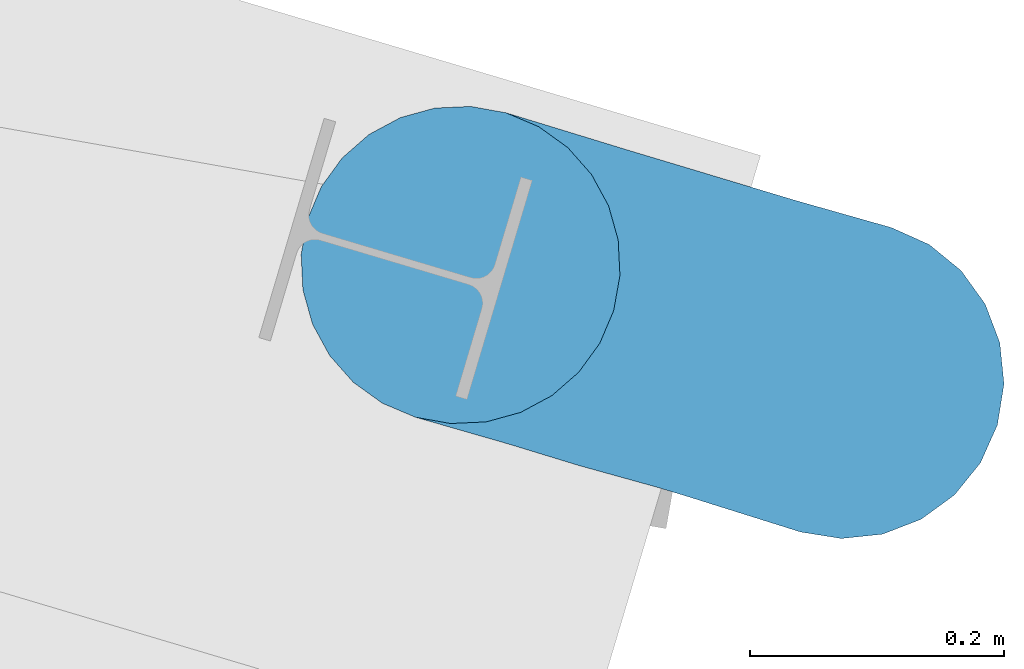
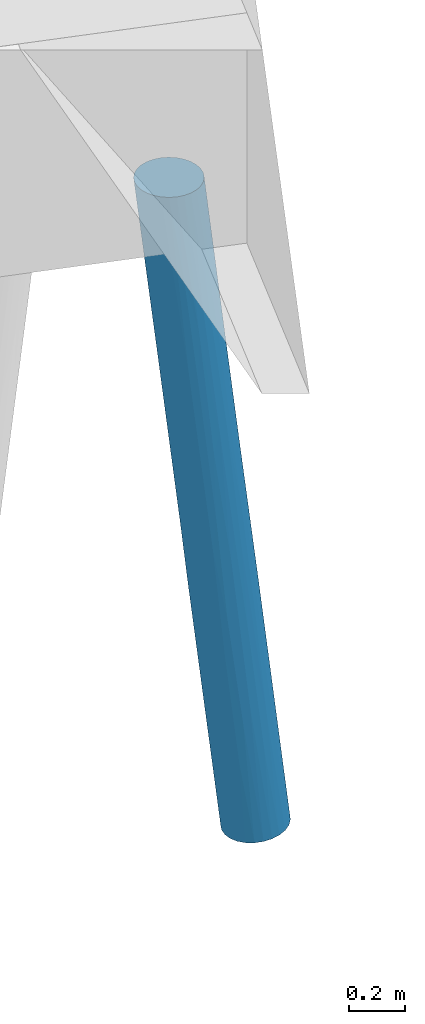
# One storey, part 45 of 46: 1 pile.
"""IFC2X3 building model written with IfcOpenShell, lengths in millimetres."""

from ifc_helpers import new_model, entity, si_unit, converted_unit, derived_unit, direction, frame, origin, place, context, subcontext, project, spatial, faceted_brep, source, transform, mapped, material, type_object, type_shapes, element, save


model = new_model("IFC2X3")

# Units and contexts
model_context = context("Model", 3, precision=0.01, world=origin(), true_north=direction((6.123233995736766e-17, 1.0)))
body_context = subcontext(model_context, "Body", "Model", "MODEL_VIEW")
ifc_project = project(units=[si_unit("LENGTHUNIT", "METRE", prefix="MILLI"), converted_unit("PLANEANGLEUNIT", "DEGREE", entity("IfcPlaneAngleMeasure", 0.017453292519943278), si_unit("PLANEANGLEUNIT", "RADIAN"), dimensions=[0, 0, 0, 0, 0, 0, 0]), si_unit("AREAUNIT", "SQUARE_METRE"), derived_unit("THERMALTRANSMITTANCEUNIT", [(si_unit("MASSUNIT", "GRAM", prefix="KILO"), 1), (si_unit("THERMODYNAMICTEMPERATUREUNIT", "KELVIN"), -1), (si_unit("TIMEUNIT", "SECOND"), -3)])], contexts=[model_context])

# Site, building, storey
site_placement = place(None, frame((-72937.88054949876, 11621.45624098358, 0.0), z_axis=(0.0, 0.0, 1.0), x_axis=(0.9346418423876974, -0.35559053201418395, 0.0)))
site = spatial("IfcSite", under=ifc_project, at=site_placement, Name="Default", CompositionType="ELEMENT")
building_placement = place(site_placement, origin())
building = spatial("IfcBuilding", under=site, at=building_placement, CompositionType="ELEMENT")
storey_placement = place(building_placement, origin())
storey = spatial("IfcBuildingStorey", under=building, at=storey_placement, Name="00 begane grond", CompositionType="ELEMENT", Elevation=0.0)

# Pile
ifc_material = material(Name="beton_gewapend_prefab-element_c45/55")
type_product = type_object("IfcTypeProduct", Name="Type 01", material=ifc_material)
shared_shape = source(origin(), body_context, "Body", "Brep", [
    faceted_brep([(72.36643070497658, 41.239861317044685, -1587.2480771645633), (115.53639022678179, 54.2354673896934, -1150.0), (124.838162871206, 27.815116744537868, -1150.0), (-182.0787577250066, 65.1457063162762, -1842.6627389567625), (-165.1894529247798, 41.33003827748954, -1588.4448595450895), (-111.09194578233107, 54.23546738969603, -1150.0), (15.031797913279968, 88.27496307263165, -1836.1297740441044), (32.98344934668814, 64.94314047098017, -1840.3127773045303), (-30.14575159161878, 64.60051474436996, -2410.3553271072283), (41.77006032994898, 0.0, -1925.992599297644), (80.6380595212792, 97.7289353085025, -1150.0), (100.55257203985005, 77.9362252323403, -1150.0), (-175.6519081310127, 115.48494156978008, -3184.035406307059), (-108.17343100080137, 106.74566752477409, -2732.5343267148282), (-180.54618184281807, 99.16916754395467, -3483.986786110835), (30.20851053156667, 121.8659890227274, -1150.0), (56.79144948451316, 112.62110848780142, -1150.0), (-42.91884640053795, 117.90464735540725, -1932.2038124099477), (-120.39371842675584, 27.81511674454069, -1150.0), (-245.70385641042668, 64.88368548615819, -2413.8437241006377), (-162.25875578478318, 88.50075404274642, -1830.9574517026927), (-242.98263969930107, 88.62069146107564, -2558.5627355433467), (-151.93048965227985, 53.33845094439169, -3561.073967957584), (-133.56769714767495, 28.49629953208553, -3474.2266886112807), (-194.4421984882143, 32.35238063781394, -4013.333582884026), (12.222467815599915, 106.275938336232, -1655.8961403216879), (-73.06982999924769, 124.27812918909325, -1949.1011896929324), (-80.64748703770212, 124.23668125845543, -1770.9263967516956), (-23.427620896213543, 124.20079095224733, -1508.6429901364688), (-240.21076201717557, 123.93060767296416, -3479.642475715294), (-314.4444444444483, 125.0, -4000.0), (-265.024992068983, 123.93060767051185, -3407.479310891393), (-117.33081280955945, 0.0, -3357.900457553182), (-190.20897761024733, 0.0, -4013.803940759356), (2.2222222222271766, 125.0, -1150.0), (-25.764066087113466, 121.86598902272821, -1150.0), (-326.96702366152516, 47.83542903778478, -3066.942589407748), (-375.2689438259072, 28.366113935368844, -3445.0277270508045), (-317.9689709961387, 23.60182842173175, -2920.157783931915), (-73.70805836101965, 23.187811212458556, -2945.6497765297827), (-39.92708990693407, 41.47720200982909, -2597.136214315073), (16.085837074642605, 41.18767244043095, -2093.938466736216), (-196.28435151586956, 123.47165352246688, -2760.095105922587), (-183.665203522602, 123.01104339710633, -3024.1067526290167), (-226.59670338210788, 88.38834764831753, -4009.7608601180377), (-252.3267110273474, 108.25317547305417, -4006.901970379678), (-148.27550792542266, 76.09517863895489, -3402.494577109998), (-206.8533741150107, 62.49999999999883, -4011.9545633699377), (-52.347005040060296, 112.62110848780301, -1150.0), (-99.40312932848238, 118.21391771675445, -1696.7443345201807), (-119.74622127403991, 106.37235269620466, -1653.229951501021), (-185.92128902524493, 102.46025049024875, -2194.904710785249), (-238.2779479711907, 106.2597512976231, -2718.3665211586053), (-42.820885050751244, 102.58547775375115, -2202.1491422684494), (-156.2252162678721, 118.09364807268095, -2204.9892079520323), (-319.0271104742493, 115.48494156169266, -3608.075760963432), (-264.72929865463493, 115.48494155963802, -3119.3954545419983), (-96.10812759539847, 77.93622523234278, -1150.0), (-76.19361507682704, 97.72893530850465, -1150.0), (-1.3402226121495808, 0.0, -2313.985145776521), (-44.451993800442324, 0.0, -2701.9910864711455), (-292.6922084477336, 91.63383624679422, -3034.349570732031), (-292.9202820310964, 72.79893776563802, -2886.1326580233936), (-227.31882224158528, 115.48494156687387, -3649.0376333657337), (-282.2899395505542, 120.74072828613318, -4003.5727227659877), (-221.60043037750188, 41.38232604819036, -2096.309657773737), (-209.76851175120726, 0.0, -1925.9934634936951), (-346.59894933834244, 120.74072828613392, -3996.4272772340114), (-376.56217786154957, 108.25317547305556, -3993.0980296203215), (-66.21715172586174, 88.15377228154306, -2568.4634430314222), (-129.97696806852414, 118.32629651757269, -2704.701988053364), (-123.5470158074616, 0.0, -1150.0), (-345.703852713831, 76.09517862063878, -3383.3196685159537), (-377.5274465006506, 52.979842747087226, -3542.5215927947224), (-275.88856858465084, 42.22399193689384, -2587.6075033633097), (-402.29218550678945, 88.38834764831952, -3990.239139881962), (-422.0355147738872, 62.50000000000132, -3988.0454366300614), (-331.8470727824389, 99.16916753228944, -3467.5525053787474), (-132.44344591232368, 124.68323586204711, -2281.458802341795), (-89.11715414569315, 71.65077909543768, -2899.5648185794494), (-96.52658231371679, 47.8354290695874, -3084.4998642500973), (127.99146025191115, 0.0, -1150.0), (-252.87925972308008, 0.0, -2313.9901952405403), (-122.93481462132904, 90.89446365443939, -3053.447507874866), (-438.679911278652, 0.0, -3986.1960592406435), (-434.4466904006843, 32.352380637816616, -3986.6664171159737), (-141.73877836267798, 124.16072599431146, -2576.5969257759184), (-210.06991733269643, 117.23436667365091, -2667.881922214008), (-367.33495948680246, 0.0, -3344.091493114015), (-295.9900076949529, 0.0, -2701.9869269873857), (-120.39371842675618, -27.815116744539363, -1150.0), (-111.09194578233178, -54.23546738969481, -1150.0), (-96.10812759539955, -77.93622523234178, -1150.0), (-76.1936150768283, -97.72893530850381, -1150.0), (-52.34700504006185, -112.62110848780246, -1150.0), (-25.76406608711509, -121.86598902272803, -1150.0), (2.222222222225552, -125.0, -1150.0), (30.20851053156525, -121.86598902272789, -1150.0), (56.79144948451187, -112.62110848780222, -1150.0), (80.63805952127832, -97.7289353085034, -1150.0), (100.55257203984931, -77.93622523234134, -1150.0), (115.53639022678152, -54.23546738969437, -1150.0), (124.83816287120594, -27.815116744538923, -1150.0), (-151.9304895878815, -53.338451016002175, -3561.073967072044), (-133.5676976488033, -28.496299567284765, -3474.2266930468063), (-96.52658225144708, -47.83542901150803, -3084.4998639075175), (-140.32328536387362, -105.94191584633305, -1832.1538289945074), (-126.78568187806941, -88.44799753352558, -1511.2211246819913), (-176.7825211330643, -87.58614607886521, -1953.453255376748), (-185.53475823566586, -41.3488976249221, -1771.6124540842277), (-98.5233768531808, -124.24251446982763, -1932.2861052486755), (-221.49211536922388, -66.66107193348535, -2205.8974607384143), (-159.3540506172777, -67.83984168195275, -1653.46778938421), (-312.10423006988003, -99.16916769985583, -3289.866922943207), (-352.8086337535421, -76.09517892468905, -3447.262699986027), (-402.2921855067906, -88.38834764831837, -3990.239139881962), (-235.41358059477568, -123.93060766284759, -3436.4678436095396), (-314.44444444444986, -125.0, -4000.0), (-282.2899395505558, -120.74072828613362, -4003.5727227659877), (-384.2243809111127, -47.83542945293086, -3582.258806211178), (-328.2998352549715, -47.83542988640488, -3078.9378969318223), (-362.94366171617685, -26.27355326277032, -3329.855963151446), (-376.562177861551, -108.25317547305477, -3993.0980296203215), (-226.59670338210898, -88.38834764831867, -4009.7608601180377), (-148.27550783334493, -76.0951785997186, -3402.49457655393), (-180.54618171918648, -99.16916751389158, -3483.9867853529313), (-104.92272192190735, -118.27912572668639, -1748.1433712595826), (-163.52036571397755, -118.46525212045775, -2280.4898650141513), (-39.927089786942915, -41.4772017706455, -2597.1362139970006), (-89.11715398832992, -71.6507788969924, -2899.5648184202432), (-221.11735801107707, -106.04994682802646, -2560.8655013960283), (-274.28881423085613, -82.15433137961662, -2785.484682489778), (-434.4466904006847, -32.35238063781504, -3986.6664171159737), (-422.03551477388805, -62.49999999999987, -3988.0454366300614), (-129.97696798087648, -118.32629644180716, -2704.7019892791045), (-141.73877802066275, -124.16072595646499, -2576.596925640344), (-180.90977316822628, -122.95522291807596, -3002.087637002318), (-232.56829871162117, -117.68101498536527, -2881.4778788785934), (-242.59310629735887, -123.930607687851, -3205.592340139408), (-180.2811496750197, -124.04234815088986, -2652.6852150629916), (-346.598949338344, -120.7407282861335, -3996.4272772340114), (-301.7888662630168, -115.48494161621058, -3452.931564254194), (-206.85337411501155, -62.50000000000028, -4011.9545633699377), (-29.559553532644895, -124.19873841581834, -1563.993853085), (-83.4987298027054, -124.18127902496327, -2050.828488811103), (-42.91884618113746, -117.90464729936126, -1932.2038118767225), (-30.14575143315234, -64.60051457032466, -2410.3553266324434), (32.983449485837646, -64.94314037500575, -1840.3127765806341), (15.03179802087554, -88.27496298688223, -1836.1297738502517), (12.222467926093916, -106.27593827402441, -1655.89614023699), (-42.820884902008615, -102.58547764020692, -2202.149142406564), (-73.70805863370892, -23.18781108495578, -2945.6497792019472), (72.36643080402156, -41.2398612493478, -1587.2480764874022), (16.08583725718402, -41.18767230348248, -2093.9384655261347), (-221.94118502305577, -91.78881553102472, -2399.105716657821), (-122.93481449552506, -90.89446347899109, -3053.447508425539), (-66.2171515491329, -88.15377212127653, -2568.463442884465), (-108.173430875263, -106.74566744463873, -2732.534326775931), (-262.27997921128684, -34.77836369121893, -2443.29023072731), (-252.32671102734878, -108.25317547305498, -4006.901970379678), (-227.31882233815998, -115.48494155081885, -3649.0376345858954), (-277.036285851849, -61.03344887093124, -2675.5040755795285), (-194.44219848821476, -32.35238063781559, -4013.333582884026), (-312.1095376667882, -26.52940126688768, -2872.8494770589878), (-175.65190824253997, -115.48494153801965, -3184.0354080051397)], [[[0, 1, 2]], [[3, 4, 5]], [[6, 7, 8]], [[0, 2, 9]], [[10, 11, 6]], [[12, 13, 14]], [[15, 16, 17]], [[18, 5, 4]], [[19, 20, 21]], [[22, 23, 24]], [[25, 16, 10]], [[26, 27, 28]], [[29, 30, 31]], [[23, 32, 33]], [[7, 6, 11]], [[34, 27, 35]], [[36, 37, 38]], [[23, 39, 32]], [[40, 8, 41]], [[31, 42, 43]], [[14, 44, 45]], [[19, 3, 20]], [[34, 15, 28]], [[46, 47, 44]], [[48, 49, 50]], [[51, 52, 21]], [[17, 25, 53]], [[46, 22, 47]], [[49, 54, 50]], [[31, 55, 56]], [[20, 57, 58]], [[41, 9, 59, 60]], [[21, 61, 62]], [[41, 7, 0]], [[63, 45, 64]], [[4, 65, 66]], [[57, 3, 5]], [[50, 51, 20]], [[55, 67, 68]], [[56, 42, 31]], [[13, 53, 69]], [[12, 70, 13]], [[66, 71, 18]], [[36, 72, 73]], [[31, 30, 67]], [[36, 38, 74]], [[21, 52, 61]], [[74, 62, 36]], [[36, 73, 37]], [[72, 75, 76]], [[72, 77, 75]], [[50, 20, 58]], [[46, 44, 14]], [[7, 41, 8]], [[42, 54, 78]], [[26, 78, 27]], [[79, 40, 80]], [[9, 2, 81]], [[82, 66, 65]], [[60, 39, 40]], [[83, 14, 13]], [[77, 68, 75]], [[84, 37, 85]], [[21, 62, 19]], [[29, 64, 30]], [[31, 43, 29]], [[83, 79, 46]], [[12, 14, 63]], [[68, 77, 55]], [[77, 61, 52]], [[64, 29, 63]], [[43, 70, 12]], [[7, 11, 1]], [[41, 0, 9]], [[1, 0, 7]], [[69, 6, 8]], [[69, 8, 79]], [[40, 79, 8]], [[18, 4, 66]], [[65, 4, 3]], [[19, 65, 3]], [[20, 3, 57]], [[65, 19, 74]], [[72, 36, 62]], [[86, 42, 78]], [[52, 87, 56]], [[69, 79, 83]], [[46, 79, 80]], [[13, 69, 83]], [[14, 83, 46]], [[6, 69, 53]], [[86, 17, 70]], [[6, 53, 25]], [[17, 53, 70]], [[6, 25, 10]], [[16, 25, 17]], [[80, 40, 39]], [[40, 41, 60]], [[80, 39, 23]], [[39, 60, 32]], [[80, 23, 22]], [[24, 23, 33]], [[80, 22, 46]], [[47, 22, 24]], [[74, 19, 62]], [[77, 72, 61]], [[62, 61, 72]], [[56, 77, 52]], [[42, 56, 87]], [[20, 51, 21]], [[51, 54, 52]], [[54, 49, 27]], [[51, 50, 54]], [[48, 50, 58]], [[53, 13, 70]], [[86, 70, 43]], [[86, 43, 42]], [[29, 43, 12]], [[67, 55, 31]], [[82, 65, 74]], [[38, 88, 89, 82]], [[88, 38, 37]], [[88, 37, 84]], [[76, 85, 73]], [[37, 73, 85]], [[76, 73, 72]], [[87, 54, 42]], [[87, 52, 54]], [[82, 74, 38]], [[56, 55, 77]], [[17, 86, 26]], [[27, 78, 54]], [[78, 26, 86]], [[15, 17, 28]], [[34, 28, 27]], [[26, 28, 17]], [[45, 63, 14]], [[12, 63, 29]], [[49, 35, 27]], [[35, 49, 48]], [[48, 58, 57, 5, 18, 71, 90, 91, 92, 93, 94, 95, 96, 97, 98, 99, 100, 101, 102, 81, 2, 1, 11, 10, 16, 15, 34, 35]], [[103, 104, 105]], [[9, 81, 102]], [[106, 107, 108]], [[91, 90, 109]], [[96, 95, 110]], [[109, 111, 112]], [[113, 114, 115]], [[116, 117, 118]], [[93, 106, 94]], [[119, 120, 121]], [[122, 113, 115]], [[112, 111, 108]], [[123, 124, 125]], [[126, 127, 110]], [[88, 84, 121]], [[90, 71, 66]], [[128, 129, 105]], [[130, 131, 113]], [[127, 126, 106]], [[119, 132, 133]], [[134, 135, 136]], [[137, 138, 139]], [[122, 140, 141]], [[124, 123, 142]], [[143, 144, 145]], [[146, 147, 148]], [[149, 150, 148]], [[114, 113, 131]], [[105, 104, 151]], [[144, 134, 145]], [[152, 153, 9]], [[113, 122, 141]], [[98, 97, 145]], [[126, 95, 94]], [[99, 148, 100]], [[137, 141, 138]], [[154, 131, 130]], [[105, 151, 128]], [[138, 140, 117]], [[138, 117, 116]], [[155, 156, 157]], [[143, 97, 96]], [[66, 158, 109]], [[159, 160, 118]], [[134, 150, 145]], [[102, 101, 152]], [[105, 124, 103]], [[109, 158, 111]], [[156, 146, 148]], [[91, 112, 92]], [[156, 155, 129]], [[101, 100, 147]], [[147, 152, 101]], [[148, 99, 149]], [[150, 157, 156]], [[111, 158, 161]], [[109, 90, 66]], [[114, 133, 115]], [[113, 141, 137]], [[125, 159, 123]], [[59, 9, 153]], [[33, 104, 162]], [[156, 129, 146]], [[136, 139, 138]], [[120, 158, 163]], [[164, 116, 160]], [[133, 114, 119]], [[111, 161, 131]], [[120, 114, 161]], [[154, 108, 111]], [[130, 113, 137]], [[141, 140, 138]], [[121, 120, 163]], [[158, 66, 82, 89]], [[159, 125, 160]], [[125, 155, 157]], [[102, 152, 9]], [[153, 152, 147]], [[146, 153, 147]], [[148, 147, 100]], [[153, 146, 128]], [[124, 105, 129]], [[137, 127, 130]], [[139, 136, 135]], [[130, 127, 106]], [[139, 144, 110]], [[139, 127, 137]], [[127, 139, 110]], [[128, 146, 129]], [[125, 124, 155]], [[129, 155, 124]], [[164, 125, 157]], [[164, 157, 134]], [[148, 150, 156]], [[157, 150, 134]], [[98, 145, 149]], [[150, 149, 145]], [[98, 149, 99]], [[109, 112, 91]], [[59, 153, 128]], [[151, 32, 60]], [[32, 151, 104]], [[32, 104, 33]], [[142, 162, 103]], [[104, 103, 162]], [[142, 103, 124]], [[106, 126, 94]], [[126, 110, 95]], [[116, 164, 136]], [[144, 135, 134]], [[134, 136, 164]], [[116, 136, 138]], [[121, 84, 132]], [[120, 119, 114]], [[119, 121, 132]], [[89, 88, 163]], [[121, 163, 88]], [[163, 158, 89]], [[128, 151, 60]], [[128, 60, 59]], [[107, 93, 92]], [[107, 92, 112]], [[130, 106, 154]], [[93, 107, 106]], [[108, 107, 112]], [[135, 144, 139]], [[96, 110, 143]], [[97, 143, 145]], [[144, 143, 110]], [[118, 160, 116]], [[164, 160, 125]], [[131, 161, 114]], [[120, 161, 158]], [[131, 154, 111]], [[108, 154, 106]], [[115, 133, 132, 84, 85, 76, 75, 68, 67, 30, 64, 45, 44, 47, 24, 33, 162, 142, 123, 159, 118, 117, 140, 122]]]),
])
type_shapes(type_product, [shared_shape])
pile_placement = place(storey_placement, frame((66571.65870588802, 35653.93367237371, 0.0), z_axis=(0.0, 0.0, 1.0), x_axis=(-0.9972637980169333, -0.0739250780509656, 0.0)))
element("IfcPile", 1, at=pile_placement, inside=storey, type_object=type_product, material=ifc_material, Name="17.21_Prefab funderingspaal rond", ObjectType="prefab paal rond", PredefinedType="NOTDEFINED", context=body_context, shape_type="MappedRepresentation", body=[
    mapped(shared_shape, transform((0.0, 0.0, 0.0), scale=1.0)),
])

save(model, "model.ifc")
